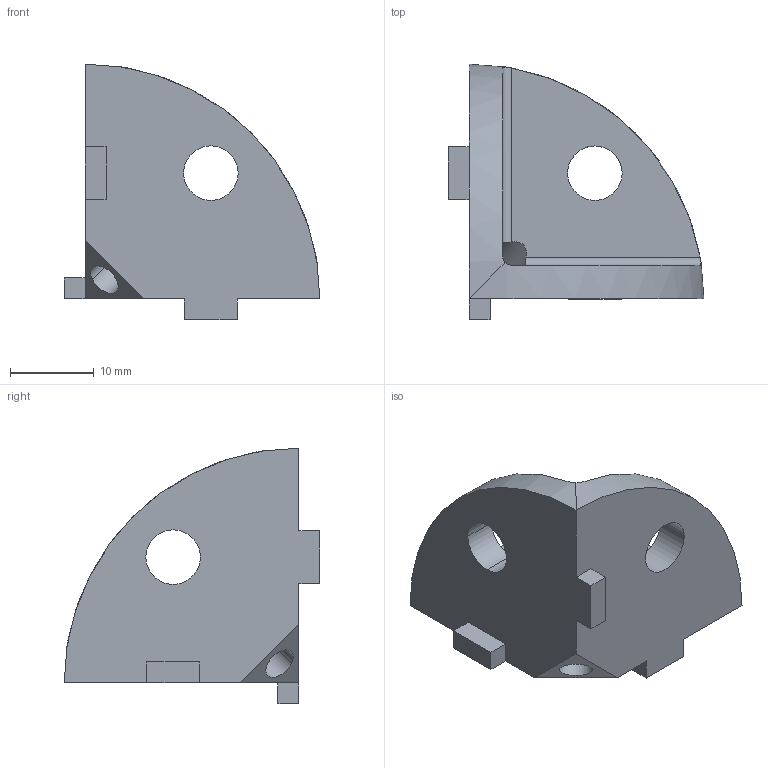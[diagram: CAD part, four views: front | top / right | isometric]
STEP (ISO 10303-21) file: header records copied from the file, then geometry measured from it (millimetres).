
FILE_DESCRIPTION (( 'STEP AP203' ), '1' );
FILE_NAME ('DCB3030R-6.STEP', '2019-04-18T07:44:48', ( '' ), ( '' ), 'SwSTEP 2.0', 'SolidWorks 2012', '' );
FILE_SCHEMA (( 'CONFIG_CONTROL_DESIGN' ));
Length unit declared in the file: millimetre
Products named in the file (1): DCB3030R-6
Bounding box: 30.5 x 30.5 x 30.5 mm (x, y, z)
Volume: 5732.9 mm3; surface area: 3705.7 mm2
Topology: 1 solids, 1 shells, 36 faces, 102 edges, 67 vertices
Faces by surface type: plane 19, cylinder 17
Entity records: 1300 total; most frequent: CARTESIAN_POINT 287, ORIENTED_EDGE 204, DIRECTION 185, EDGE_CURVE 102, VERTEX_POINT 67, AXIS2_PLACEMENT_3D 63, VECTOR 59, LINE 59
